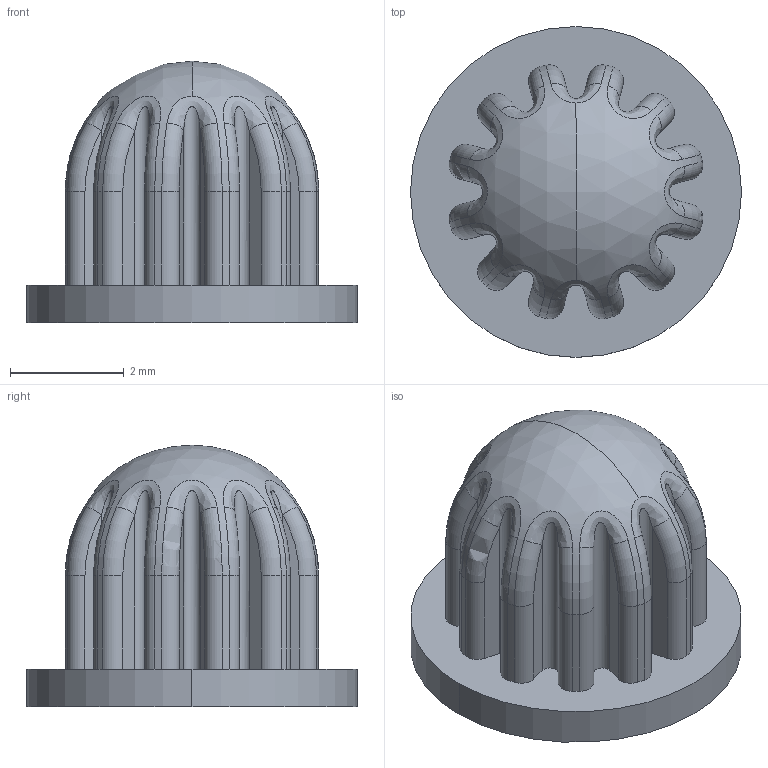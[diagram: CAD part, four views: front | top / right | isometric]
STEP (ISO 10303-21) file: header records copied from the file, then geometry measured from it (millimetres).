
FILE_DESCRIPTION (( 'STEP AP214' ), '1' );
FILE_NAME ('3DFSFA2300200A.STEP', '2021-03-31T18:12:50', ( '' ), ( '' ), 'SwSTEP 2.0', 'SolidWorks 2019', '' );
FILE_SCHEMA (( 'AUTOMOTIVE_DESIGN' ));
Length unit declared in the file: inch
Products named in the file (1): 3DFSFA2300200A
Bounding box: 5.82 x 5.82 x 4.6 mm (x, y, z)
Volume: 60.6 mm3; surface area: 130.7 mm2
Topology: 1 solids, 1 shells, 312 faces, 817 edges, 529 vertices
Faces by surface type: plane 136, bspline 89, cylinder 61, torus 24, sphere 2
Entity records: 17718 total; most frequent: CARTESIAN_POINT 7999, ORIENTED_EDGE 1634, DIRECTION 1259, EDGE_CURVE 817, VERTEX_POINT 529, VECTOR 453, LINE 453, AXIS2_PLACEMENT_3D 403
